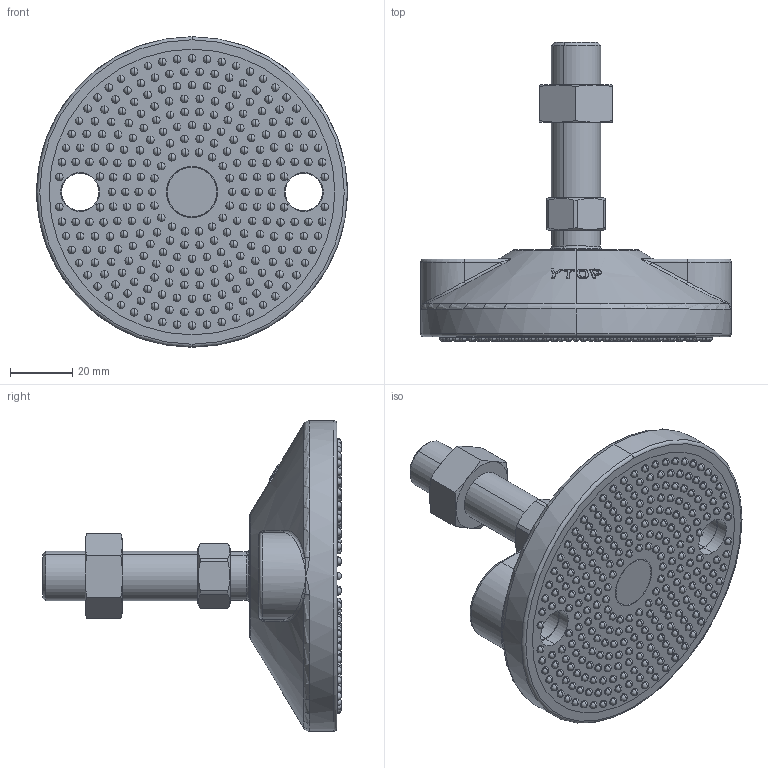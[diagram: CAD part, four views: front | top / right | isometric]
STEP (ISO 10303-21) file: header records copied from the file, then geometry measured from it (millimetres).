
FILE_DESCRIPTION (( 'STEP AP203' ), '1' );
FILE_NAME ('G-100-1650-PA.STEP', '2020-09-08T08:26:03', ( '' ), ( '' ), 'SwSTEP 2.0', 'SolidWorks 2016', '' );
FILE_SCHEMA (( 'CONFIG_CONTROL_DESIGN' ));
Length unit declared in the file: millimetre
Products named in the file (5): 脚垫调节六角螺母M16; 大球头螺杆M16系列_M16X50; G100菁釱; G-100-1650-PA; G100菁菜
Assembly tree (4 placements, depth 2):
  G-100-1650-PA
    G100菁釱
    G100菁菜
    大球头螺杆M16系列_M16X50
    脚垫调节六角螺母M16
Bounding box: 100 x 96.25 x 100 mm (x, y, z)
Volume: 141799.8 mm3; surface area: 54575.7 mm2
Topology: 4 solids, 4 shells, 1337 faces, 3908 edges, 2306 vertices
Faces by surface type: cylinder 601, sphere 562, bspline 62, plane 50, cone 43, torus 19
Entity records: 41458 total; most frequent: CARTESIAN_POINT 11193, DIRECTION 7026, ORIENTED_EDGE 5598, AXIS2_PLACEMENT_3D 3171, EDGE_CURVE 2799, CIRCLE 1889, VERTEX_POINT 1755, EDGE_LOOP 1634
